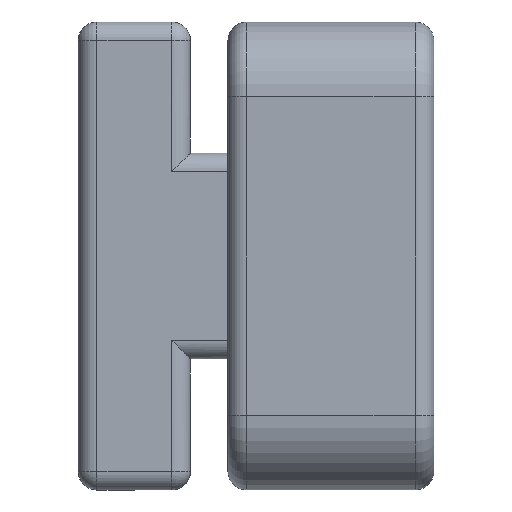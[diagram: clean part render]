
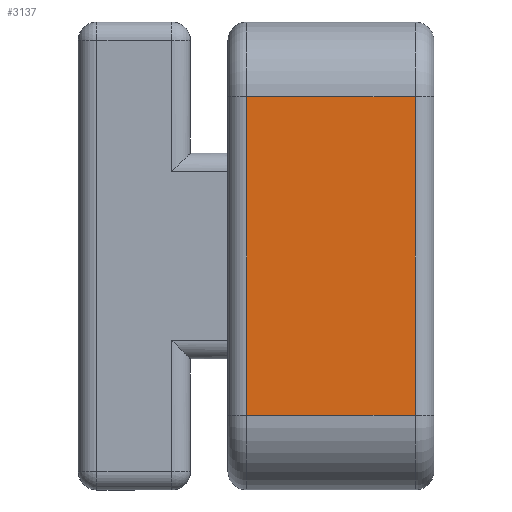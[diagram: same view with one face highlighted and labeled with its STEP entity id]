
A CAD part, left-side view. The second image highlights one B-rep face of the part: STEP entity #3137.
In plain terms, the highlighted planar face has unit normal (-1, 0, 0).
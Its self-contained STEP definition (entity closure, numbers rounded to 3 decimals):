
#19 = DIRECTION ( 'NONE',  ( 0., -1., 0. ) ) ;
#152 = VERTEX_POINT ( 'NONE', #494 ) ;
#281 = CARTESIAN_POINT ( 'NONE',  ( -17.5, 1., 8.5 ) ) ;
#348 = ORIENTED_EDGE ( 'NONE', *, *, #669, .T. ) ;
#426 = CARTESIAN_POINT ( 'NONE',  ( -17.5, 11., 12.5 ) ) ;
#494 = CARTESIAN_POINT ( 'NONE',  ( -17.5, 10., -8.5 ) ) ;
#669 = EDGE_CURVE ( 'NONE', #1092, #997, #1760, .T. ) ;
#692 = PLANE ( 'NONE',  #3060 ) ;
#730 = DIRECTION ( 'NONE',  ( 0., 0., -1. ) ) ;
#742 = EDGE_CURVE ( 'NONE', #152, #1483, #3240, .T. ) ;
#922 = CARTESIAN_POINT ( 'NONE',  ( -17.5, 11., 8.5 ) ) ;
#979 = VECTOR ( 'NONE', #1174, 1000. ) ;
#997 = VERTEX_POINT ( 'NONE', #1377 ) ;
#1020 = DIRECTION ( 'NONE',  ( 1., 0., 0. ) ) ;
#1078 = ORIENTED_EDGE ( 'NONE', *, *, #1150, .T. ) ;
#1092 = VERTEX_POINT ( 'NONE', #281 ) ;
#1150 = EDGE_CURVE ( 'NONE', #1483, #1092, #2962, .T. ) ;
#1174 = DIRECTION ( 'NONE',  ( 0., 1., 0. ) ) ;
#1183 = CARTESIAN_POINT ( 'NONE',  ( -17.5, 1., 12.5 ) ) ;
#1377 = CARTESIAN_POINT ( 'NONE',  ( -17.5, 10., 8.5 ) ) ;
#1483 = VERTEX_POINT ( 'NONE', #2578 ) ;
#1563 = DIRECTION ( 'NONE',  ( 0., 0., -1. ) ) ;
#1760 = LINE ( 'NONE', #922, #979 ) ;
#1771 = ORIENTED_EDGE ( 'NONE', *, *, #742, .T. ) ;
#2138 = DIRECTION ( 'NONE',  ( 0., 0., 1. ) ) ;
#2567 = ORIENTED_EDGE ( 'NONE', *, *, #2649, .T. ) ;
#2578 = CARTESIAN_POINT ( 'NONE',  ( -17.5, 1., -8.5 ) ) ;
#2648 = EDGE_LOOP ( 'NONE', ( #1771, #1078, #348, #2567 ) ) ;
#2649 = EDGE_CURVE ( 'NONE', #997, #152, #2892, .T. ) ;
#2862 = VECTOR ( 'NONE', #2138, 1000. ) ;
#2892 = LINE ( 'NONE', #3013, #3487 ) ;
#2962 = LINE ( 'NONE', #1183, #2862 ) ;
#3013 = CARTESIAN_POINT ( 'NONE',  ( -17.5, 10., -8.5 ) ) ;
#3060 = AXIS2_PLACEMENT_3D ( 'NONE', #426, #1020, #730 ) ;
#3137 = ADVANCED_FACE ( 'NONE', ( #3813 ), #692, .F. ) ;
#3240 = LINE ( 'NONE', #3528, #3714 ) ;
#3487 = VECTOR ( 'NONE', #1563, 1000. ) ;
#3528 = CARTESIAN_POINT ( 'NONE',  ( -17.5, 11., -8.5 ) ) ;
#3714 = VECTOR ( 'NONE', #19, 1000. ) ;
#3813 = FACE_OUTER_BOUND ( 'NONE', #2648, .T. ) ;
